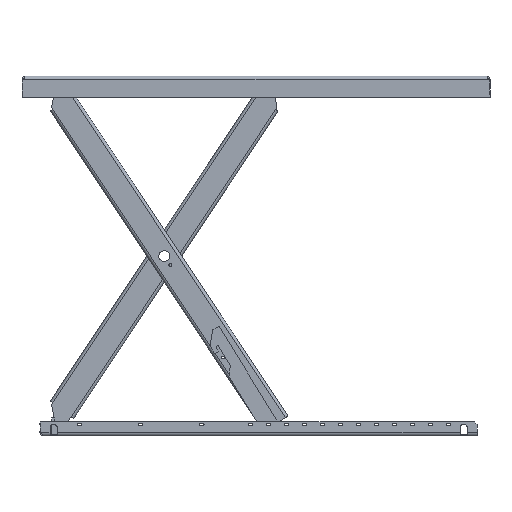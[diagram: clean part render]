
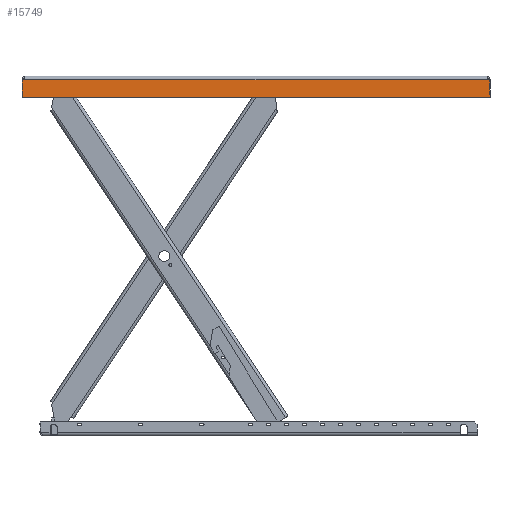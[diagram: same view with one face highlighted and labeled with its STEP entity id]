
A CAD part, front view. The second image highlights one B-rep face of the part: STEP entity #15749.
In plain terms, the highlighted planar face has unit normal (0, -1, 0).
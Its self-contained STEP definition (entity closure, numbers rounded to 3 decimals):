
#1545=CIRCLE('',#17280,1.);
#1547=CIRCLE('',#17283,1.);
#1548=CIRCLE('',#17284,38.539);
#1549=CIRCLE('',#17285,1.);
#1550=CIRCLE('',#17286,1.);
#1551=CIRCLE('',#17287,1.);
#1552=CIRCLE('',#17288,1.);
#1553=CIRCLE('',#17289,38.539);
#1554=CIRCLE('',#17290,1.);
#1555=CIRCLE('',#17291,1.);
#2307=FACE_OUTER_BOUND('',#3355,.T.);
#3355=EDGE_LOOP('',(#13828,#13829,#13830,#13831,#13832,#13833,#13834,#13835,
#13836,#13837,#13838,#13839,#13840,#13841,#13842,#13843,#13844,#13845));
#4744=LINE('',#26578,#6175);
#4745=LINE('',#26586,#6176);
#4746=LINE('',#26590,#6177);
#4747=LINE('',#26592,#6178);
#4748=LINE('',#26594,#6179);
#4749=LINE('',#26598,#6180);
#4750=LINE('',#26606,#6181);
#4751=LINE('',#26609,#6182);
#6175=VECTOR('',#21244,10.);
#6176=VECTOR('',#21251,10.);
#6177=VECTOR('',#21254,10.);
#6178=VECTOR('',#21255,10.);
#6179=VECTOR('',#21256,10.);
#6180=VECTOR('',#21259,10.);
#6181=VECTOR('',#21266,10.);
#6182=VECTOR('',#21269,10.);
#7653=VERTEX_POINT('',#26568);
#7654=VERTEX_POINT('',#26569);
#7657=VERTEX_POINT('',#26577);
#7658=VERTEX_POINT('',#26579);
#7659=VERTEX_POINT('',#26581);
#7660=VERTEX_POINT('',#26583);
#7661=VERTEX_POINT('',#26585);
#7662=VERTEX_POINT('',#26587);
#7663=VERTEX_POINT('',#26589);
#7664=VERTEX_POINT('',#26591);
#7665=VERTEX_POINT('',#26593);
#7666=VERTEX_POINT('',#26595);
#7667=VERTEX_POINT('',#26597);
#7668=VERTEX_POINT('',#26599);
#7669=VERTEX_POINT('',#26601);
#7670=VERTEX_POINT('',#26603);
#7671=VERTEX_POINT('',#26605);
#7672=VERTEX_POINT('',#26607);
#9769=EDGE_CURVE('',#7653,#7654,#1545,.T.);
#9773=EDGE_CURVE('',#7657,#7653,#4744,.T.);
#9774=EDGE_CURVE('',#7658,#7657,#1547,.T.);
#9775=EDGE_CURVE('',#7658,#7659,#1548,.T.);
#9776=EDGE_CURVE('',#7660,#7659,#1549,.T.);
#9777=EDGE_CURVE('',#7661,#7660,#4745,.T.);
#9778=EDGE_CURVE('',#7661,#7662,#1550,.T.);
#9779=EDGE_CURVE('',#7662,#7663,#4746,.T.);
#9780=EDGE_CURVE('',#7663,#7664,#4747,.T.);
#9781=EDGE_CURVE('',#7664,#7665,#4748,.T.);
#9782=EDGE_CURVE('',#7665,#7666,#1551,.T.);
#9783=EDGE_CURVE('',#7667,#7666,#4749,.T.);
#9784=EDGE_CURVE('',#7668,#7667,#1552,.T.);
#9785=EDGE_CURVE('',#7668,#7669,#1553,.T.);
#9786=EDGE_CURVE('',#7670,#7669,#1554,.T.);
#9787=EDGE_CURVE('',#7671,#7670,#4750,.T.);
#9788=EDGE_CURVE('',#7672,#7671,#1555,.T.);
#9789=EDGE_CURVE('',#7654,#7672,#4751,.T.);
#13828=ORIENTED_EDGE('',*,*,#9769,.F.);
#13829=ORIENTED_EDGE('',*,*,#9773,.F.);
#13830=ORIENTED_EDGE('',*,*,#9774,.F.);
#13831=ORIENTED_EDGE('',*,*,#9775,.T.);
#13832=ORIENTED_EDGE('',*,*,#9776,.F.);
#13833=ORIENTED_EDGE('',*,*,#9777,.F.);
#13834=ORIENTED_EDGE('',*,*,#9778,.T.);
#13835=ORIENTED_EDGE('',*,*,#9779,.T.);
#13836=ORIENTED_EDGE('',*,*,#9780,.T.);
#13837=ORIENTED_EDGE('',*,*,#9781,.T.);
#13838=ORIENTED_EDGE('',*,*,#9782,.T.);
#13839=ORIENTED_EDGE('',*,*,#9783,.F.);
#13840=ORIENTED_EDGE('',*,*,#9784,.F.);
#13841=ORIENTED_EDGE('',*,*,#9785,.T.);
#13842=ORIENTED_EDGE('',*,*,#9786,.F.);
#13843=ORIENTED_EDGE('',*,*,#9787,.F.);
#13844=ORIENTED_EDGE('',*,*,#9788,.F.);
#13845=ORIENTED_EDGE('',*,*,#9789,.F.);
#15018=PLANE('',#17282);
#15749=ADVANCED_FACE('',(#2307),#15018,.F.);
#17280=AXIS2_PLACEMENT_3D('',#26570,#21236,#21237);
#17282=AXIS2_PLACEMENT_3D('',#26576,#21242,#21243);
#17283=AXIS2_PLACEMENT_3D('',#26580,#21245,#21246);
#17284=AXIS2_PLACEMENT_3D('',#26582,#21247,#21248);
#17285=AXIS2_PLACEMENT_3D('',#26584,#21249,#21250);
#17286=AXIS2_PLACEMENT_3D('',#26588,#21252,#21253);
#17287=AXIS2_PLACEMENT_3D('',#26596,#21257,#21258);
#17288=AXIS2_PLACEMENT_3D('',#26600,#21260,#21261);
#17289=AXIS2_PLACEMENT_3D('',#26602,#21262,#21263);
#17290=AXIS2_PLACEMENT_3D('',#26604,#21264,#21265);
#17291=AXIS2_PLACEMENT_3D('',#26608,#21267,#21268);
#21236=DIRECTION('center_axis',(0.,1.,0.));
#21237=DIRECTION('ref_axis',(-0.707,0.,0.707));
#21242=DIRECTION('center_axis',(0.,1.,0.));
#21243=DIRECTION('ref_axis',(1.,0.,0.));
#21244=DIRECTION('',(0.,0.,1.));
#21245=DIRECTION('center_axis',(0.,1.,0.));
#21246=DIRECTION('ref_axis',(-0.992,0.,-0.129));
#21247=DIRECTION('center_axis',(0.,1.,0.));
#21248=DIRECTION('ref_axis',(-0.966,0.,0.259));
#21249=DIRECTION('center_axis',(0.,1.,0.));
#21250=DIRECTION('ref_axis',(-0.992,0.,0.129));
#21251=DIRECTION('',(0.,0.,1.));
#21252=DIRECTION('center_axis',(0.,-1.,0.));
#21253=DIRECTION('ref_axis',(-1.,0.,0.));
#21254=DIRECTION('',(0.856,0.,-0.517));
#21255=DIRECTION('',(1.,0.,0.));
#21256=DIRECTION('',(0.856,0.,0.517));
#21257=DIRECTION('center_axis',(0.,-1.,0.));
#21258=DIRECTION('ref_axis',(1.,0.,0.));
#21259=DIRECTION('',(0.,0.,-1.));
#21260=DIRECTION('center_axis',(0.,1.,0.));
#21261=DIRECTION('ref_axis',(0.992,0.,0.129));
#21262=DIRECTION('center_axis',(0.,1.,0.));
#21263=DIRECTION('ref_axis',(0.966,0.,0.259));
#21264=DIRECTION('center_axis',(0.,1.,0.));
#21265=DIRECTION('ref_axis',(0.992,0.,-0.129));
#21266=DIRECTION('',(0.,0.,-1.));
#21267=DIRECTION('center_axis',(0.,1.,0.));
#21268=DIRECTION('ref_axis',(0.707,0.,0.707));
#21269=DIRECTION('',(1.,0.,0.));
#26568=CARTESIAN_POINT('',(-650.,-350.,59.));
#26569=CARTESIAN_POINT('',(-649.,-350.,60.));
#26570=CARTESIAN_POINT('Origin',(-649.,-350.,59.));
#26576=CARTESIAN_POINT('Origin',(0.,-350.,30.042));
#26577=CARTESIAN_POINT('',(-650.,-350.,33.021));
#26578=CARTESIAN_POINT('',(-650.,-350.,10.));
#26579=CARTESIAN_POINT('',(-649.967,-350.,32.765));
#26580=CARTESIAN_POINT('Origin',(-649.,-350.,33.021));
#26581=CARTESIAN_POINT('',(-649.967,-350.,13.015));
#26582=CARTESIAN_POINT('Origin',(-687.219,-350.,22.89));
#26583=CARTESIAN_POINT('',(-650.,-350.,12.759));
#26584=CARTESIAN_POINT('Origin',(-649.,-350.,12.759));
#26585=CARTESIAN_POINT('',(-650.,-350.,11.954));
#26586=CARTESIAN_POINT('',(-650.,-350.,10.));
#26587=CARTESIAN_POINT('',(-649.517,-350.,11.098));
#26588=CARTESIAN_POINT('Origin',(-649.,-350.,11.954));
#26589=CARTESIAN_POINT('',(-647.698,-350.,10.));
#26590=CARTESIAN_POINT('',(-414.814,-350.,-130.624));
#26591=CARTESIAN_POINT('',(647.698,-350.,10.));
#26592=CARTESIAN_POINT('',(0.,-350.,10.));
#26593=CARTESIAN_POINT('',(649.517,-350.,11.098));
#26594=CARTESIAN_POINT('',(414.814,-350.,-130.624));
#26595=CARTESIAN_POINT('',(650.,-350.,11.954));
#26596=CARTESIAN_POINT('Origin',(649.,-350.,11.954));
#26597=CARTESIAN_POINT('',(650.,-350.,12.759));
#26598=CARTESIAN_POINT('',(650.,-350.,10.));
#26599=CARTESIAN_POINT('',(649.967,-350.,13.015));
#26600=CARTESIAN_POINT('Origin',(649.,-350.,12.759));
#26601=CARTESIAN_POINT('',(649.967,-350.,32.765));
#26602=CARTESIAN_POINT('Origin',(687.219,-350.,22.89));
#26603=CARTESIAN_POINT('',(650.,-350.,33.021));
#26604=CARTESIAN_POINT('Origin',(649.,-350.,33.021));
#26605=CARTESIAN_POINT('',(650.,-350.,59.));
#26606=CARTESIAN_POINT('',(650.,-350.,10.));
#26607=CARTESIAN_POINT('',(649.,-350.,60.));
#26608=CARTESIAN_POINT('Origin',(649.,-350.,59.));
#26609=CARTESIAN_POINT('',(-650.,-350.,60.));
